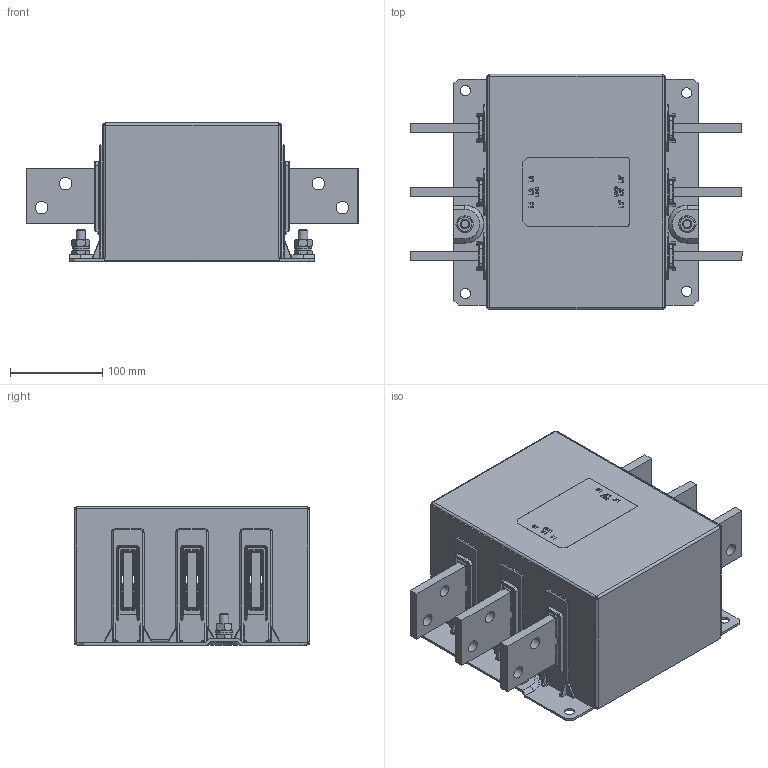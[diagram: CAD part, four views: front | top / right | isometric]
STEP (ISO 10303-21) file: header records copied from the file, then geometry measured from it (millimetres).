
FILE_DESCRIPTION((''),'2;1');
FILE_NAME('P:\Construction\Filter_Marketing\FN\FN3311\FN3311-1500-99\FN331X-1500-99-CXX-RXX.stp','2015-05-04T17:13:41',('erika.jenzer'),(''),'Autodesk Inventor 2013','Autodesk Inventor 2013','');
FILE_SCHEMA(('AUTOMOTIVE_DESIGN { 1 0 10303 214 1 1 1 1 }'));
Length unit declared in the file: millimetre
Products named in the file (1): FN331X-1500-99-CXX-RXX
Bounding box: 360 x 255 x 150.1 mm (x, y, z)
Volume: 845708.3 mm3; surface area: 611346.8 mm2
Topology: 7 solids, 19 shells, 2976 faces, 7521 edges, 4584 vertices
Faces by surface type: plane 1336, cylinder 882, bspline 550, cone 92, sphere 60, torus 56
Full cylindrical faces by diameter (mm): 4.82 x2, 10 x4, 11 x4, 13.5 x12, 16 x2, 18 x2
Entity records: 100780 total; most frequent: CARTESIAN_POINT 27808, ORIENTED_EDGE 14790, DIRECTION 14263, EDGE_CURVE 7395, AXIS2_PLACEMENT_3D 4929, VERTEX_POINT 4566, VECTOR 4405, LINE 4405
